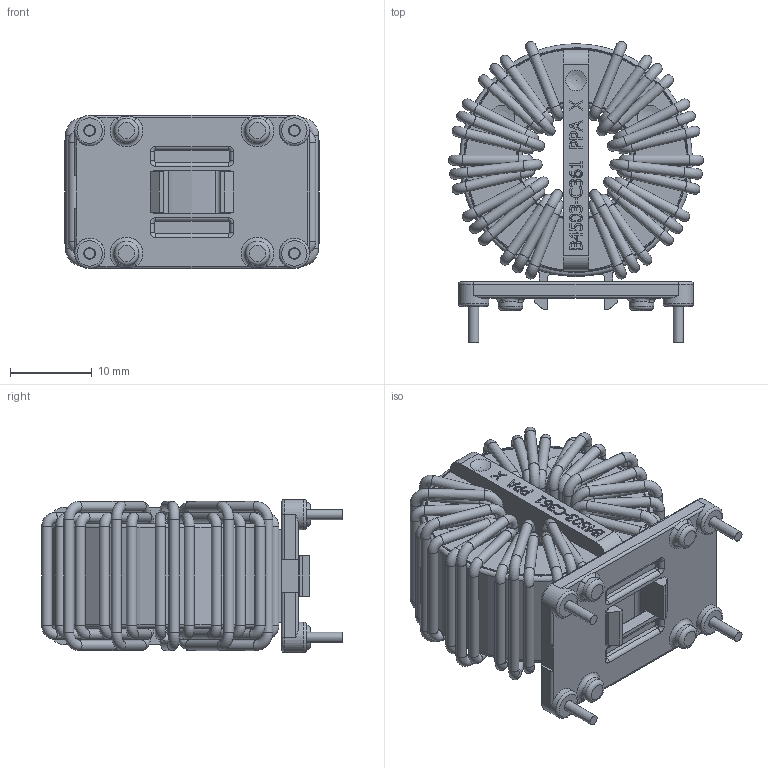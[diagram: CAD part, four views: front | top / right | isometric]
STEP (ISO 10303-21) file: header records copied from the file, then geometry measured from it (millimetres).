
FILE_DESCRIPTION(/* description */ (''),/* implementation_level */ '2;1');
FILE_NAME(/* name */ 'G:\KB-FTKon\CAD\Inventor\Bauelementnummer\6127-X012\6127-X012_Shrinkwrap_1.stp',/* time_stamp */ '2019-04-30T10:57:58+02:00',/* author */ ('de041100'),/* organization */ (''),/* preprocessor_version */ 'ST-DEVELOPER v17.2',/* originating_system */ 'Autodesk Inventor 2019',/* authorisation */ '');
FILE_SCHEMA (('AUTOMOTIVE_DESIGN { 1 0 10303 214 3 1 1 }'));
Products named in the file (1): 6127-X012_Shrinkwrap_1
Bounding box: 31.1 x 36.74 x 18.7 mm (x, y, z)
Volume: 9737.7 mm3; surface area: 11315.6 mm2
Topology: 25 solids, 25 shells, 1392 faces, 4052 edges, 2712 vertices
Faces by surface type: plane 557, bspline 382, cylinder 255, torus 188, sphere 6, cone 4
Full cylindrical faces by diameter (mm): 1.25 x120, 1.4 x4, 3 x4, 3.7 x4, 13.2 x1, 14.4 x1, 27.2 x1, 28.4 x1
Entity records: 51800 total; most frequent: CARTESIAN_POINT 15036, ORIENTED_EDGE 8098, DIRECTION 6347, EDGE_CURVE 4049, VERTEX_POINT 2716, AXIS2_PLACEMENT_3D 2185, LINE 1977, VECTOR 1977
